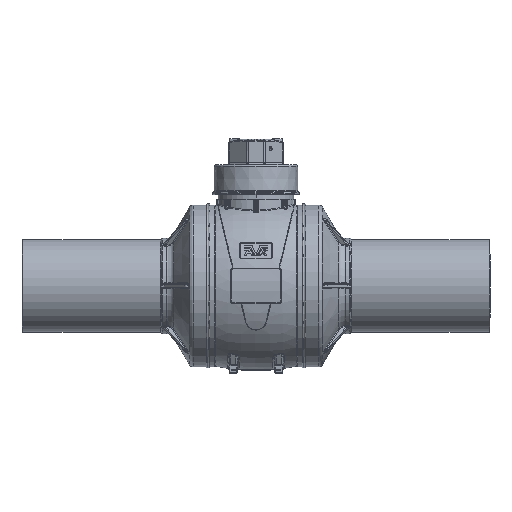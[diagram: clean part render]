
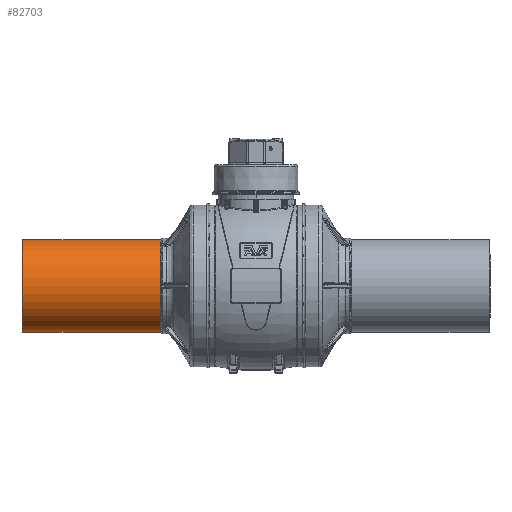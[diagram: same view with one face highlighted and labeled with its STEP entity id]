
A CAD part, top view. The second image highlights one B-rep face of the part: STEP entity #82703.
In plain terms, the highlighted cylindrical face has radius 55 mm (diameter 110 mm), a partial arc.
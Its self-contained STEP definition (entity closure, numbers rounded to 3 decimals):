
#7341 = CIRCLE ( 'NONE', #64364, 55. ) ;
#7435 = LINE ( 'NONE', #12902, #7436 ) ;
#7436 = VECTOR ( 'NONE', #12903, 1000. ) ;
#7471 = LINE ( 'NONE', #12994, #7474 ) ;
#7474 = VECTOR ( 'NONE', #12995, 1000. ) ;
#12605 = CARTESIAN_POINT ( 'NONE',  ( -113.651, 0., 0. ) ) ;
#12606 = DIRECTION ( 'NONE',  ( -1., 0., 0. ) ) ;
#12607 = DIRECTION ( 'NONE',  ( 0., 0., -1. ) ) ;
#12902 = CARTESIAN_POINT ( 'NONE',  ( -66.5, -55., 0. ) ) ;
#12903 = DIRECTION ( 'NONE',  ( 1., 0., 0. ) ) ;
#12994 = CARTESIAN_POINT ( 'NONE',  ( -66.5, 55., 0. ) ) ;
#12995 = DIRECTION ( 'NONE',  ( 1., 0., 0. ) ) ;
#23784 = CIRCLE ( 'NONE', #65286, 55. ) ;
#23807 = CIRCLE ( 'NONE', #65290, 55. ) ;
#24293 = EDGE_CURVE ( 'NONE', #34265, #74533, #7341, .T. ) ;
#24441 = EDGE_CURVE ( 'NONE', #74535, #70905, #7435, .T. ) ;
#24499 = EDGE_CURVE ( 'NONE', #74536, #74533, #7471, .T. ) ;
#27782 = EDGE_CURVE ( 'NONE', #74536, #74535, #23784, .T. ) ;
#27783 = EDGE_CURVE ( 'NONE', #70905, #34265, #23807, .T. ) ;
#32582 = CARTESIAN_POINT ( 'NONE',  ( -277.151, 0., 0. ) ) ;
#32584 = DIRECTION ( 'NONE',  ( 1., 0., 0. ) ) ;
#32586 = DIRECTION ( 'NONE',  ( 0., 1., 0. ) ) ;
#32589 = CARTESIAN_POINT ( 'NONE',  ( -113.651, 0., 0. ) ) ;
#32590 = DIRECTION ( 'NONE',  ( -1., 0., 0. ) ) ;
#32591 = DIRECTION ( 'NONE',  ( 0., 0., -1. ) ) ;
#34265 = VERTEX_POINT ( 'NONE', #44550 ) ;
#36083 = AXIS2_PLACEMENT_3D ( 'NONE', #56712, #56679, #56675 ) ;
#41802 = FACE_OUTER_BOUND ( 'NONE', #61177, .T. ) ;
#41805 = CYLINDRICAL_SURFACE ( 'NONE', #36083, 55. ) ;
#44550 = CARTESIAN_POINT ( 'NONE',  ( -113.651, 0., 55. ) ) ;
#54811 = CARTESIAN_POINT ( 'NONE',  ( -113.651, -55., 0. ) ) ;
#55120 = CARTESIAN_POINT ( 'NONE',  ( -113.651, 55., 0. ) ) ;
#55123 = CARTESIAN_POINT ( 'NONE',  ( -277.151, -55., 0. ) ) ;
#55124 = CARTESIAN_POINT ( 'NONE',  ( -277.151, 55., 0. ) ) ;
#56675 = DIRECTION ( 'NONE',  ( 0., -1., 0. ) ) ;
#56679 = DIRECTION ( 'NONE',  ( 1., 0., 0. ) ) ;
#56712 = CARTESIAN_POINT ( 'NONE',  ( -66.5, 0., 0. ) ) ;
#61177 = EDGE_LOOP ( 'NONE', ( #82921, #82922, #82923, #82924, #82925 ) ) ;
#64364 = AXIS2_PLACEMENT_3D ( 'NONE', #12605, #12606, #12607 ) ;
#65286 = AXIS2_PLACEMENT_3D ( 'NONE', #32582, #32584, #32586 ) ;
#65290 = AXIS2_PLACEMENT_3D ( 'NONE', #32589, #32590, #32591 ) ;
#70905 = VERTEX_POINT ( 'NONE', #54811 ) ;
#74533 = VERTEX_POINT ( 'NONE', #55120 ) ;
#74535 = VERTEX_POINT ( 'NONE', #55123 ) ;
#74536 = VERTEX_POINT ( 'NONE', #55124 ) ;
#82703 = ADVANCED_FACE ( 'NONE', ( #41802 ), #41805, .T. ) ;
#82921 = ORIENTED_EDGE ( 'NONE', *, *, #24499, .F. ) ;
#82922 = ORIENTED_EDGE ( 'NONE', *, *, #27782, .T. ) ;
#82923 = ORIENTED_EDGE ( 'NONE', *, *, #24441, .T. ) ;
#82924 = ORIENTED_EDGE ( 'NONE', *, *, #27783, .T. ) ;
#82925 = ORIENTED_EDGE ( 'NONE', *, *, #24293, .T. ) ;
